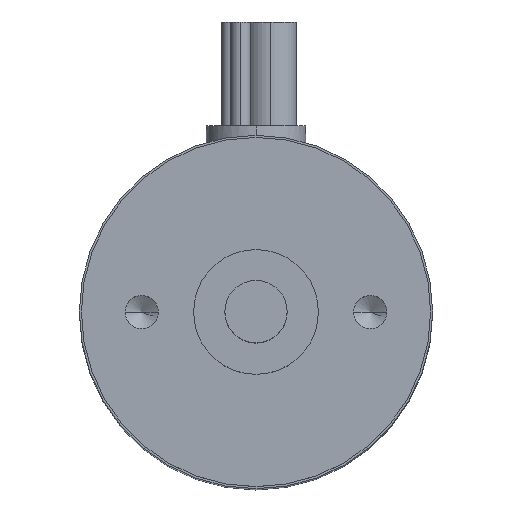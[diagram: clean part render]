
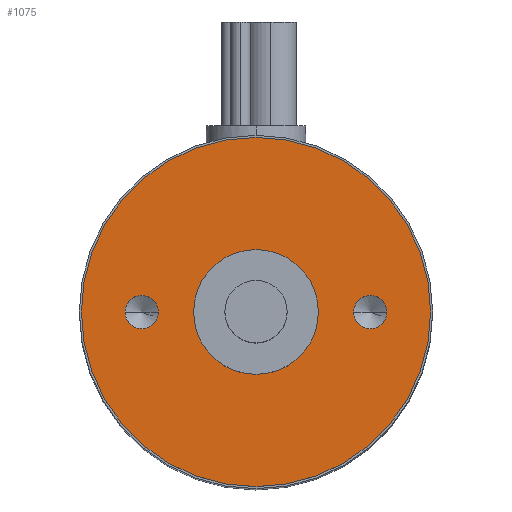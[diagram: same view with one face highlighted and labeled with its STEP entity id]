
A CAD part, top view. The second image highlights one B-rep face of the part: STEP entity #1075.
In plain terms, the highlighted planar face has unit normal (0, 0, 1).
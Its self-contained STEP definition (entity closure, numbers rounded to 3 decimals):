
#3 = CARTESIAN_POINT ( 'NONE',  ( -5.5, 0., 0. ) ) ;
#25 = VERTEX_POINT ( 'NONE', #1125 ) ;
#27 = DIRECTION ( 'NONE',  ( 0., 0., 1. ) ) ;
#49 = EDGE_CURVE ( 'NONE', #696, #25, #871, .T. ) ;
#60 = CIRCLE ( 'NONE', #877, 3. ) ;
#62 = PLANE ( 'NONE',  #205 ) ;
#66 = EDGE_CURVE ( 'NONE', #25, #696, #560, .T. ) ;
#92 = CARTESIAN_POINT ( 'NONE',  ( -5.5, 0., 0. ) ) ;
#110 = EDGE_LOOP ( 'NONE', ( #116, #246 ) ) ;
#116 = ORIENTED_EDGE ( 'NONE', *, *, #867, .F. ) ;
#157 = DIRECTION ( 'NONE',  ( 1., 0., 0. ) ) ;
#160 = AXIS2_PLACEMENT_3D ( 'NONE', #92, #885, #489 ) ;
#161 = CARTESIAN_POINT ( 'NONE',  ( 0., 0., 0. ) ) ;
#191 = VERTEX_POINT ( 'NONE', #465 ) ;
#194 = CARTESIAN_POINT ( 'NONE',  ( -8.4, 0., 0. ) ) ;
#205 = AXIS2_PLACEMENT_3D ( 'NONE', #1055, #263, #341 ) ;
#210 = CARTESIAN_POINT ( 'NONE',  ( 6.3, 0., 0. ) ) ;
#228 = CARTESIAN_POINT ( 'NONE',  ( 0., 0., 0. ) ) ;
#246 = ORIENTED_EDGE ( 'NONE', *, *, #603, .F. ) ;
#263 = DIRECTION ( 'NONE',  ( 0., 0., -1. ) ) ;
#325 = DIRECTION ( 'NONE',  ( 0., 0., 1. ) ) ;
#333 = AXIS2_PLACEMENT_3D ( 'NONE', #228, #27, #821 ) ;
#341 = DIRECTION ( 'NONE',  ( -1., 0., 0. ) ) ;
#353 = DIRECTION ( 'NONE',  ( 0., 0., 1. ) ) ;
#354 = AXIS2_PLACEMENT_3D ( 'NONE', #161, #353, #660 ) ;
#370 = CARTESIAN_POINT ( 'NONE',  ( 0., 0., 0. ) ) ;
#372 = EDGE_CURVE ( 'NONE', #882, #981, #728, .T. ) ;
#400 = ORIENTED_EDGE ( 'NONE', *, *, #372, .F. ) ;
#413 = EDGE_CURVE ( 'NONE', #981, #882, #938, .T. ) ;
#414 = DIRECTION ( 'NONE',  ( 1., 0., 0. ) ) ;
#420 = CIRCLE ( 'NONE', #354, 3. ) ;
#465 = CARTESIAN_POINT ( 'NONE',  ( 3., 0., 0. ) ) ;
#466 = CARTESIAN_POINT ( 'NONE',  ( -4.7, 0., 0. ) ) ;
#489 = DIRECTION ( 'NONE',  ( 1., 0., 0. ) ) ;
#510 = DIRECTION ( 'NONE',  ( 1., 0., 0. ) ) ;
#515 = FACE_BOUND ( 'NONE', #110, .T. ) ;
#522 = CARTESIAN_POINT ( 'NONE',  ( 5.5, 0., 0. ) ) ;
#560 = CIRCLE ( 'NONE', #1306, 0.8 ) ;
#568 = CARTESIAN_POINT ( 'NONE',  ( 0., 0., 0. ) ) ;
#603 = EDGE_CURVE ( 'NONE', #1032, #191, #420, .T. ) ;
#606 = CIRCLE ( 'NONE', #1052, 8.4 ) ;
#615 = ORIENTED_EDGE ( 'NONE', *, *, #998, .T. ) ;
#621 = FACE_BOUND ( 'NONE', #691, .T. ) ;
#622 = DIRECTION ( 'NONE',  ( 0., 0., 1. ) ) ;
#632 = CARTESIAN_POINT ( 'NONE',  ( -6.3, 0., 0. ) ) ;
#651 = ORIENTED_EDGE ( 'NONE', *, *, #49, .F. ) ;
#660 = DIRECTION ( 'NONE',  ( 1., 0., 0. ) ) ;
#668 = DIRECTION ( 'NONE',  ( 1., 0., 0. ) ) ;
#683 = AXIS2_PLACEMENT_3D ( 'NONE', #522, #910, #510 ) ;
#691 = EDGE_LOOP ( 'NONE', ( #400, #1213 ) ) ;
#696 = VERTEX_POINT ( 'NONE', #210 ) ;
#721 = DIRECTION ( 'NONE',  ( 1., 0., 0. ) ) ;
#728 = CIRCLE ( 'NONE', #160, 0.8 ) ;
#819 = ORIENTED_EDGE ( 'NONE', *, *, #66, .F. ) ;
#821 = DIRECTION ( 'NONE',  ( 1., 0., 0. ) ) ;
#843 = VERTEX_POINT ( 'NONE', #1156 ) ;
#867 = EDGE_CURVE ( 'NONE', #191, #1032, #60, .T. ) ;
#871 = CIRCLE ( 'NONE', #683, 0.8 ) ;
#877 = AXIS2_PLACEMENT_3D ( 'NONE', #370, #975, #157 ) ;
#882 = VERTEX_POINT ( 'NONE', #466 ) ;
#885 = DIRECTION ( 'NONE',  ( 0., 0., 1. ) ) ;
#889 = EDGE_LOOP ( 'NONE', ( #615, #1250 ) ) ;
#909 = FACE_OUTER_BOUND ( 'NONE', #889, .T. ) ;
#910 = DIRECTION ( 'NONE',  ( 0., 0., 1. ) ) ;
#917 = CIRCLE ( 'NONE', #333, 8.4 ) ;
#938 = CIRCLE ( 'NONE', #1242, 0.8 ) ;
#975 = DIRECTION ( 'NONE',  ( 0., 0., 1. ) ) ;
#981 = VERTEX_POINT ( 'NONE', #632 ) ;
#998 = EDGE_CURVE ( 'NONE', #843, #1234, #917, .T. ) ;
#1026 = FACE_BOUND ( 'NONE', #1240, .T. ) ;
#1032 = VERTEX_POINT ( 'NONE', #1119 ) ;
#1052 = AXIS2_PLACEMENT_3D ( 'NONE', #568, #1253, #668 ) ;
#1055 = CARTESIAN_POINT ( 'NONE',  ( 0., 3., 0. ) ) ;
#1075 = ADVANCED_FACE ( 'NONE', ( #621, #1026, #515, #909 ), #62, .F. ) ;
#1119 = CARTESIAN_POINT ( 'NONE',  ( -3., 0., 0. ) ) ;
#1125 = CARTESIAN_POINT ( 'NONE',  ( 4.7, 0., 0. ) ) ;
#1135 = EDGE_CURVE ( 'NONE', #1234, #843, #606, .T. ) ;
#1156 = CARTESIAN_POINT ( 'NONE',  ( 8.4, 0., 0. ) ) ;
#1213 = ORIENTED_EDGE ( 'NONE', *, *, #413, .F. ) ;
#1231 = CARTESIAN_POINT ( 'NONE',  ( 5.5, 0., 0. ) ) ;
#1234 = VERTEX_POINT ( 'NONE', #194 ) ;
#1240 = EDGE_LOOP ( 'NONE', ( #651, #819 ) ) ;
#1242 = AXIS2_PLACEMENT_3D ( 'NONE', #3, #325, #414 ) ;
#1250 = ORIENTED_EDGE ( 'NONE', *, *, #1135, .T. ) ;
#1253 = DIRECTION ( 'NONE',  ( 0., 0., 1. ) ) ;
#1306 = AXIS2_PLACEMENT_3D ( 'NONE', #1231, #622, #721 ) ;
